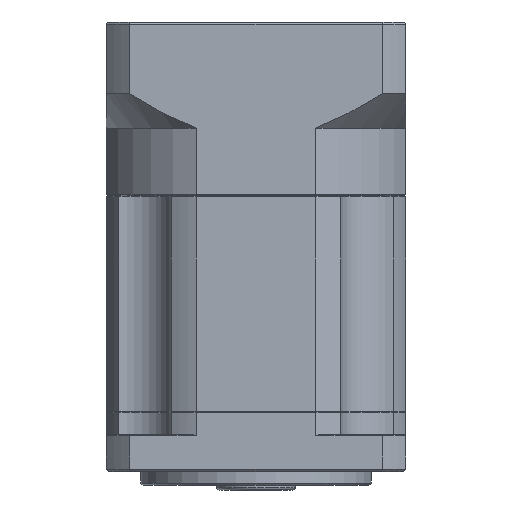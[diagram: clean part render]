
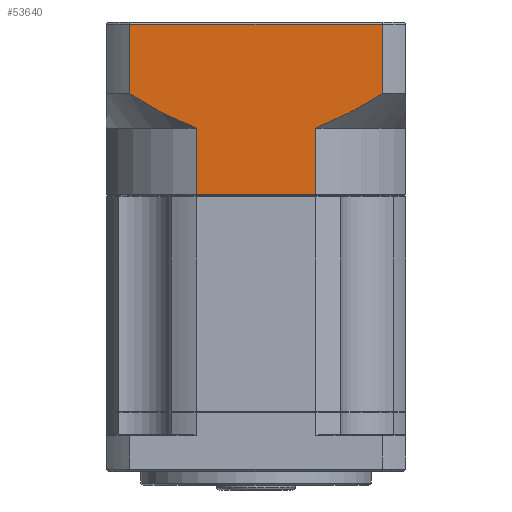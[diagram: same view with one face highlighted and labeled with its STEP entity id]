
A CAD part, front view. The second image highlights one B-rep face of the part: STEP entity #53640.
In plain terms, the highlighted planar face has unit normal (0, -1, 0).
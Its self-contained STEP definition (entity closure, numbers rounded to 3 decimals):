
#5260 = CARTESIAN_POINT ( 'NONE',  ( -3.377, -21.741, 130.889 ) ) ;
#5973 = VECTOR ( 'NONE', #97673, 1000. ) ;
#7228 = ORIENTED_EDGE ( 'NONE', *, *, #17541, .F. ) ;
#8572 = VERTEX_POINT ( 'NONE', #17235 ) ;
#9482 = FACE_OUTER_BOUND ( 'NONE', #73602, .T. ) ;
#10023 = CARTESIAN_POINT ( 'NONE',  ( 23.246, -21.741, 116.239 ) ) ;
#10095 = ORIENTED_EDGE ( 'NONE', *, *, #84156, .F. ) ;
#11363 = EDGE_CURVE ( 'NONE', #70438, #74222, #82007, .T. ) ;
#12151 = VERTEX_POINT ( 'NONE', #60208 ) ;
#12437 = CARTESIAN_POINT ( 'NONE',  ( -2.735, -21.741, 130.65 ) ) ;
#13105 = CARTESIAN_POINT ( 'NONE',  ( -5.277, -21.741, 131.666 ) ) ;
#13623 = EDGE_CURVE ( 'NONE', #12151, #83144, #26790, .T. ) ;
#14233 = LINE ( 'NONE', #100403, #94137 ) ;
#14548 = CARTESIAN_POINT ( 'NONE',  ( 42.756, -21.741, 116.239 ) ) ;
#15155 = VECTOR ( 'NONE', #61149, 1000. ) ;
#16642 = LINE ( 'NONE', #67894, #55685 ) ;
#17235 = CARTESIAN_POINT ( 'NONE',  ( -2.735, -21.741, 116.239 ) ) ;
#17541 = EDGE_CURVE ( 'NONE', #12151, #70438, #43333, .T. ) ;
#17870 = ORIENTED_EDGE ( 'NONE', *, *, #92664, .F. ) ;
#18015 = CARTESIAN_POINT ( 'NONE',  ( 42.756, -21.741, 153.65 ) ) ;
#18841 = CARTESIAN_POINT ( 'NONE',  ( -17.13, -21.741, 138.15 ) ) ;
#19820 = EDGE_CURVE ( 'NONE', #76392, #83144, #27958, .T. ) ;
#20160 = VECTOR ( 'NONE', #44508, 1000. ) ;
#21043 = CARTESIAN_POINT ( 'NONE',  ( -7.754, -21.741, 132.79 ) ) ;
#21484 = DIRECTION ( 'NONE',  ( 0., 0., -1. ) ) ;
#23065 = DIRECTION ( 'NONE',  ( 0., 0., 1. ) ) ;
#23854 = ORIENTED_EDGE ( 'NONE', *, *, #88201, .T. ) ;
#25909 = DIRECTION ( 'NONE',  ( -1., 0., 0. ) ) ;
#26790 = LINE ( 'NONE', #97773, #5973 ) ;
#27958 = LINE ( 'NONE', #77452, #69162 ) ;
#28868 = CARTESIAN_POINT ( 'NONE',  ( -12.547, -21.741, 135.3 ) ) ;
#29613 = VERTEX_POINT ( 'NONE', #94125 ) ;
#36706 = CARTESIAN_POINT ( 'NONE',  ( -17.13, -21.741, 138.15 ) ) ;
#39246 = VERTEX_POINT ( 'NONE', #10023 ) ;
#43333 = LINE ( 'NONE', #44848, #20160 ) ;
#44508 = DIRECTION ( 'NONE',  ( 0., 0., -1. ) ) ;
#44848 = CARTESIAN_POINT ( 'NONE',  ( 37.642, -21.741, 135.65 ) ) ;
#46253 = CARTESIAN_POINT ( 'NONE',  ( -17.13, -21.741, 153.15 ) ) ;
#46866 = ORIENTED_EDGE ( 'NONE', *, *, #19820, .F. ) ;
#48378 = CARTESIAN_POINT ( 'NONE',  ( 33.016, -21.741, 135.316 ) ) ;
#52932 = AXIS2_PLACEMENT_3D ( 'NONE', #18015, #72212, #25909 ) ;
#53640 = ADVANCED_FACE ( 'NONE', ( #9482 ), #87359, .F. ) ;
#54013 = EDGE_CURVE ( 'NONE', #8572, #29613, #14233, .T. ) ;
#55685 = VECTOR ( 'NONE', #21484, 1000. ) ;
#56089 = CARTESIAN_POINT ( 'NONE',  ( 37.642, -21.741, 138.15 ) ) ;
#58266 = ORIENTED_EDGE ( 'NONE', *, *, #54013, .F. ) ;
#58989 = LINE ( 'NONE', #14548, #15155 ) ;
#59802 = CARTESIAN_POINT ( 'NONE',  ( -4.016, -21.741, 131.141 ) ) ;
#60208 = CARTESIAN_POINT ( 'NONE',  ( 37.642, -21.741, 153.15 ) ) ;
#61149 = DIRECTION ( 'NONE',  ( 1., 0., 0. ) ) ;
#67452 = CARTESIAN_POINT ( 'NONE',  ( -5.9, -21.741, 131.94 ) ) ;
#67894 = CARTESIAN_POINT ( 'NONE',  ( 23.246, -21.741, 130.65 ) ) ;
#69162 = VECTOR ( 'NONE', #23065, 1000. ) ;
#69824 = DIRECTION ( 'NONE',  ( 0., 0., 1. ) ) ;
#70438 = VERTEX_POINT ( 'NONE', #56089 ) ;
#72212 = DIRECTION ( 'NONE',  ( 0., 1., 0. ) ) ;
#73602 = EDGE_LOOP ( 'NONE', ( #7228, #85716, #46866, #17870, #58266, #23854, #10095, #98579 ) ) ;
#74222 = VERTEX_POINT ( 'NONE', #84306 ) ;
#75132 = CARTESIAN_POINT ( 'NONE',  ( -8.966, -21.741, 133.395 ) ) ;
#75716 = B_SPLINE_CURVE_WITH_KNOTS ( 'NONE', 3,
 ( #12437, #5260, #59802, #13105, #67452, #21043, #75132, #28868, #82932, #36706 ),
 .UNSPECIFIED., .F., .F.,
 ( 4, 2, 2, 2, 4 ),
 ( 0.101, 0.104, 0.106, 0.11, 0.118 ),
 .UNSPECIFIED. ) ;
#76392 = VERTEX_POINT ( 'NONE', #18841 ) ;
#77452 = CARTESIAN_POINT ( 'NONE',  ( -17.13, -21.741, 135.65 ) ) ;
#82007 = B_SPLINE_CURVE_WITH_KNOTS ( 'NONE', 3,
 ( #94386, #94451, #93965, #48378, #93748, #93715, #93628, #93510 ),
 .UNSPECIFIED., .F., .F.,
 ( 4, 2, 2, 4 ),
 ( 0.059, 0.063, 0.067, 0.075 ),
 .UNSPECIFIED. ) ;
#82932 = CARTESIAN_POINT ( 'NONE',  ( -14.861, -21.741, 136.688 ) ) ;
#83144 = VERTEX_POINT ( 'NONE', #46253 ) ;
#84156 = EDGE_CURVE ( 'NONE', #74222, #39246, #16642, .T. ) ;
#84306 = CARTESIAN_POINT ( 'NONE',  ( 23.246, -21.741, 130.65 ) ) ;
#85716 = ORIENTED_EDGE ( 'NONE', *, *, #13623, .T. ) ;
#87359 = PLANE ( 'NONE',  #52932 ) ;
#88201 = EDGE_CURVE ( 'NONE', #8572, #39246, #58989, .T. ) ;
#92664 = EDGE_CURVE ( 'NONE', #29613, #76392, #75716, .T. ) ;
#93510 = CARTESIAN_POINT ( 'NONE',  ( 23.246, -21.741, 130.65 ) ) ;
#93628 = CARTESIAN_POINT ( 'NONE',  ( 25.785, -21.741, 131.592 ) ) ;
#93715 = CARTESIAN_POINT ( 'NONE',  ( 28.237, -21.741, 132.737 ) ) ;
#93748 = CARTESIAN_POINT ( 'NONE',  ( 31.831, -21.741, 134.646 ) ) ;
#93965 = CARTESIAN_POINT ( 'NONE',  ( 35.352, -21.741, 136.701 ) ) ;
#94125 = CARTESIAN_POINT ( 'NONE',  ( -2.735, -21.741, 130.65 ) ) ;
#94137 = VECTOR ( 'NONE', #69824, 1000. ) ;
#94386 = CARTESIAN_POINT ( 'NONE',  ( 37.642, -21.741, 138.15 ) ) ;
#94451 = CARTESIAN_POINT ( 'NONE',  ( 36.504, -21.741, 137.416 ) ) ;
#97673 = DIRECTION ( 'NONE',  ( -1., 0., 0. ) ) ;
#97773 = CARTESIAN_POINT ( 'NONE',  ( -17.13, -21.741, 153.15 ) ) ;
#98579 = ORIENTED_EDGE ( 'NONE', *, *, #11363, .F. ) ;
#100403 = CARTESIAN_POINT ( 'NONE',  ( -2.735, -21.741, 130.65 ) ) ;
